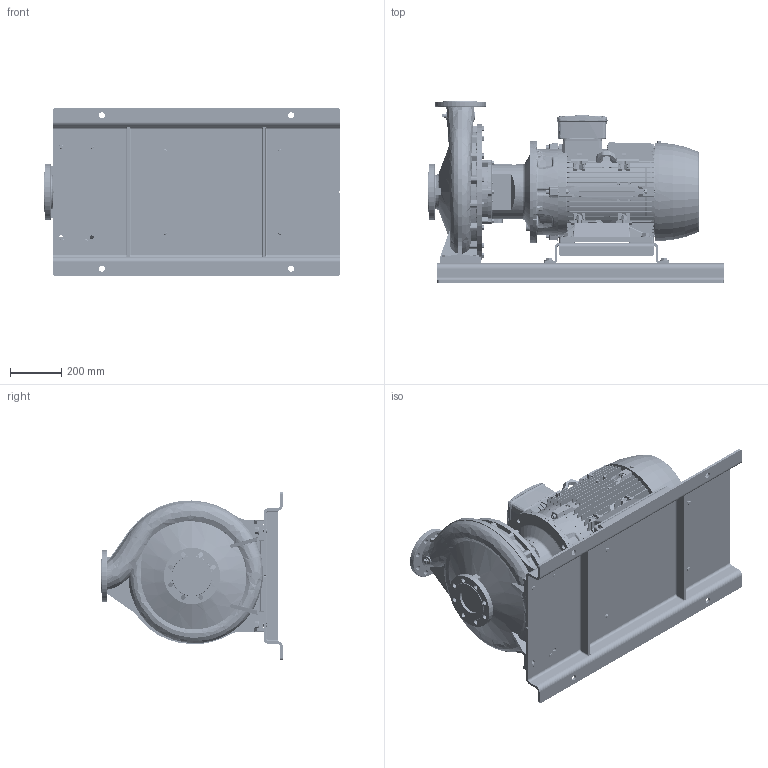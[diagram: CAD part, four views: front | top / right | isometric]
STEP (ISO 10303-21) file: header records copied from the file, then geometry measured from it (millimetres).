
FILE_DESCRIPTION (( 'STEP AP214' ), '1' );
FILE_NAME ('GSD4 80-400_30_(200ML)_W21_BP.STEP', '2026-05-08T06:28:01', ( '' ), ( '' ), 'SwSTEP 2.0', 'SolidWorks 2024', '' );
FILE_SCHEMA (( 'AUTOMOTIVE_DESIGN' ));
Length unit declared in the file: millimetre
Products named in the file (12): Parametric bolt_SFT-A351B; GSD4 80-400_30_(200ML)_W21_BP; Parametric bolt_SFT-A359B; N8S3 GSDA-831 F1-1832955-00; Parametric Flat Washer_M16; 200M_L ALIE3_W21T_B35; Parametric bolt and washer_SFT-A359B; CGS11-5273; Parametric bolt_SFT-A353B; 80-400-200M_L_ﾃﾞﾌｫﾙﾄ; Parametric bolt and washer_SFT-A351B; Parametric bolt and washer_SFT-A353B
Assembly tree (22 placements, depth 3):
  GSD4 80-400_30_(200ML)_W21_BP
    80-400-200M_L_ﾃﾞﾌｫﾙﾄ
    N8S3 GSDA-831 F1-1832955-00
    CGS11-5273
    Parametric bolt and washer_SFT-A353B  x4
      Parametric bolt_SFT-A353B
      Parametric Flat Washer_M16
    Parametric bolt and washer_SFT-A351B  x4
      Parametric bolt_SFT-A351B
      Parametric Flat Washer_M16
    Parametric bolt and washer_SFT-A359B  x4
      Parametric bolt_SFT-A359B
      Parametric Flat Washer_M16
    200M_L ALIE3_W21T_B35
Bounding box: 1155 x 710 x 660 mm (x, y, z)
Volume: 111522832.9 mm3; surface area: 7160216.1 mm2
Topology: 56 solids, 66 shells, 7836 faces, 20280 edges, 13045 vertices
Faces by surface type: plane 4457, cylinder 1530, bspline 930, cone 664, torus 255
Entity records: 300020 total; most frequent: CARTESIAN_POINT 133107, ORIENTED_EDGE 37164, DIRECTION 30300, EDGE_CURVE 18582, VERTEX_POINT 11998, VECTOR 11306, LINE 11306, AXIS2_PLACEMENT_3D 9497
